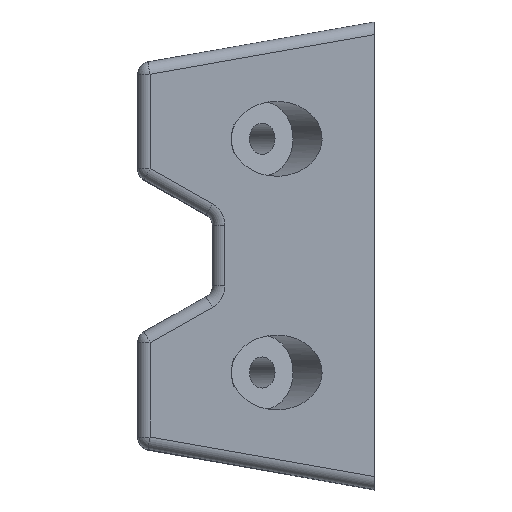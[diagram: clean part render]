
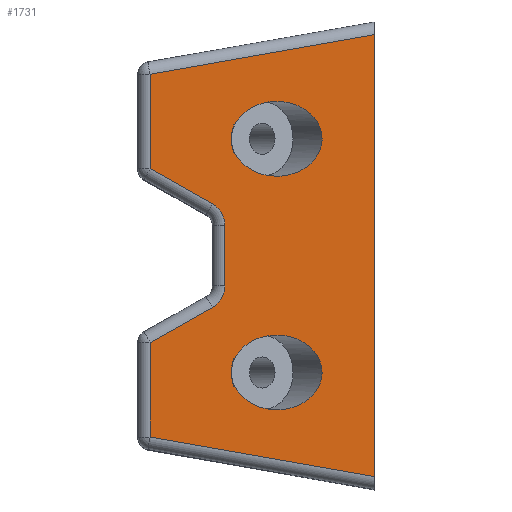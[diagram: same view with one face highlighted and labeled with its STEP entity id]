
A CAD part, top view. The second image highlights one B-rep face of the part: STEP entity #1731.
In plain terms, the highlighted planar face has unit normal (0, 0, 1).
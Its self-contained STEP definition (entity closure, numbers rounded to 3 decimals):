
#25=FACE_BOUND('',#332,.T.);
#26=FACE_BOUND('',#333,.T.);
#61=PLANE('',#1986);
#207=FACE_OUTER_BOUND('',#331,.T.);
#331=EDGE_LOOP('',(#1507,#1508,#1509,#1510,#1511,#1512,#1513,#1514,#1515,
#1516));
#332=EDGE_LOOP('',(#1517,#1518));
#333=EDGE_LOOP('',(#1519,#1520));
#351=ELLIPSE('',#1770,7.277,6.);
#352=ELLIPSE('',#1773,7.277,6.);
#385=ELLIPSE('',#1987,7.277,6.);
#386=ELLIPSE('',#1988,7.277,6.);
#419=CIRCLE('',#1847,4.);
#423=CIRCLE('',#1853,4.);
#523=LINE('',#2990,#619);
#524=LINE('',#2996,#620);
#527=LINE('',#3008,#623);
#528=LINE('',#3019,#624);
#530=LINE('',#3030,#626);
#532=LINE('',#3036,#628);
#535=LINE('',#3047,#631);
#582=LINE('',#3625,#678);
#619=VECTOR('',#2184,10.);
#620=VECTOR('',#2191,10.);
#623=VECTOR('',#2202,10.);
#624=VECTOR('',#2215,10.);
#626=VECTOR('',#2229,10.);
#628=VECTOR('',#2235,10.);
#631=VECTOR('',#2246,10.);
#678=VECTOR('',#2541,10.);
#684=VERTEX_POINT('',#2595);
#685=VERTEX_POINT('',#2597);
#687=VERTEX_POINT('',#2602);
#688=VERTEX_POINT('',#2604);
#742=VERTEX_POINT('',#2987);
#743=VERTEX_POINT('',#2989);
#745=VERTEX_POINT('',#2995);
#747=VERTEX_POINT('',#3001);
#750=VERTEX_POINT('',#3006);
#752=VERTEX_POINT('',#3011);
#754=VERTEX_POINT('',#3017);
#756=VERTEX_POINT('',#3023);
#759=VERTEX_POINT('',#3035);
#761=VERTEX_POINT('',#3041);
#823=EDGE_CURVE('',#684,#685,#351,.T.);
#826=EDGE_CURVE('',#687,#688,#352,.T.);
#905=EDGE_CURVE('',#742,#743,#523,.T.);
#908=EDGE_CURVE('',#743,#745,#524,.T.);
#914=EDGE_CURVE('',#750,#747,#527,.T.);
#916=EDGE_CURVE('',#752,#750,#419,.T.);
#919=EDGE_CURVE('',#754,#752,#528,.T.);
#922=EDGE_CURVE('',#756,#754,#423,.T.);
#925=EDGE_CURVE('',#745,#756,#530,.T.);
#928=EDGE_CURVE('',#747,#759,#532,.T.);
#934=EDGE_CURVE('',#759,#761,#535,.T.);
#1056=EDGE_CURVE('',#742,#761,#582,.T.);
#1057=EDGE_CURVE('',#685,#684,#385,.T.);
#1058=EDGE_CURVE('',#688,#687,#386,.T.);
#1507=ORIENTED_EDGE('',*,*,#905,.F.);
#1508=ORIENTED_EDGE('',*,*,#1056,.T.);
#1509=ORIENTED_EDGE('',*,*,#934,.F.);
#1510=ORIENTED_EDGE('',*,*,#928,.F.);
#1511=ORIENTED_EDGE('',*,*,#914,.F.);
#1512=ORIENTED_EDGE('',*,*,#916,.F.);
#1513=ORIENTED_EDGE('',*,*,#919,.F.);
#1514=ORIENTED_EDGE('',*,*,#922,.F.);
#1515=ORIENTED_EDGE('',*,*,#925,.F.);
#1516=ORIENTED_EDGE('',*,*,#908,.F.);
#1517=ORIENTED_EDGE('',*,*,#1057,.T.);
#1518=ORIENTED_EDGE('',*,*,#823,.T.);
#1519=ORIENTED_EDGE('',*,*,#1058,.T.);
#1520=ORIENTED_EDGE('',*,*,#826,.T.);
#1731=ADVANCED_FACE('',(#207,#25,#26),#61,.T.);
#1770=AXIS2_PLACEMENT_3D('',#2599,#2017,#2018);
#1773=AXIS2_PLACEMENT_3D('',#2606,#2024,#2025);
#1847=AXIS2_PLACEMENT_3D('',#3013,#2207,#2208);
#1853=AXIS2_PLACEMENT_3D('',#3025,#2221,#2222);
#1986=AXIS2_PLACEMENT_3D('',#3624,#2539,#2540);
#1987=AXIS2_PLACEMENT_3D('',#3626,#2542,#2543);
#1988=AXIS2_PLACEMENT_3D('',#3627,#2544,#2545);
#2017=DIRECTION('center_axis',(0.,0.,-1.));
#2018=DIRECTION('ref_axis',(-1.,0.,0.));
#2024=DIRECTION('center_axis',(0.,0.,-1.));
#2025=DIRECTION('ref_axis',(-1.,0.,0.));
#2184=DIRECTION('',(-0.985,0.174,0.));
#2191=DIRECTION('',(0.,1.,0.));
#2202=DIRECTION('',(-0.87,0.493,0.));
#2207=DIRECTION('center_axis',(0.,0.,1.));
#2208=DIRECTION('ref_axis',(0.864,0.503,0.));
#2215=DIRECTION('',(0.,1.,0.));
#2221=DIRECTION('center_axis',(0.,0.,1.));
#2222=DIRECTION('ref_axis',(0.864,-0.503,0.));
#2229=DIRECTION('',(0.87,0.493,0.));
#2235=DIRECTION('',(0.,1.,0.));
#2246=DIRECTION('',(0.985,0.174,0.));
#2539=DIRECTION('center_axis',(0.,0.,1.));
#2540=DIRECTION('ref_axis',(1.,0.,0.));
#2541=DIRECTION('',(0.,1.,0.));
#2542=DIRECTION('center_axis',(0.,0.,-1.));
#2543=DIRECTION('ref_axis',(-1.,0.,0.));
#2544=DIRECTION('center_axis',(0.,0.,-1.));
#2545=DIRECTION('ref_axis',(-1.,0.,0.));
#2595=CARTESIAN_POINT('',(38.329,-24.75,34.));
#2597=CARTESIAN_POINT('',(31.053,-18.75,34.));
#2599=CARTESIAN_POINT('Origin',(38.329,-18.75,34.));
#2602=CARTESIAN_POINT('',(38.329,12.75,34.));
#2604=CARTESIAN_POINT('',(31.053,18.75,34.));
#2606=CARTESIAN_POINT('Origin',(38.329,18.75,34.));
#2987=CARTESIAN_POINT('',(54.,-35.469,34.));
#2989=CARTESIAN_POINT('',(18.,-29.121,34.));
#2990=CARTESIAN_POINT('',(32.714,-31.716,34.));
#2995=CARTESIAN_POINT('',(18.,-13.965,34.));
#2996=CARTESIAN_POINT('',(18.,0.,34.));
#3001=CARTESIAN_POINT('',(18.,13.965,34.));
#3006=CARTESIAN_POINT('',(27.972,8.315,34.));
#3008=CARTESIAN_POINT('',(19.731,12.984,34.));
#3011=CARTESIAN_POINT('',(30.,4.835,34.));
#3013=CARTESIAN_POINT('Origin',(26.,4.835,34.));
#3017=CARTESIAN_POINT('',(30.,-4.835,34.));
#3019=CARTESIAN_POINT('',(30.,3.,34.));
#3023=CARTESIAN_POINT('',(27.972,-8.315,34.));
#3025=CARTESIAN_POINT('Origin',(26.,-4.835,34.));
#3030=CARTESIAN_POINT('',(25.731,-9.584,34.));
#3035=CARTESIAN_POINT('',(18.,29.121,34.));
#3036=CARTESIAN_POINT('',(18.,0.,34.));
#3041=CARTESIAN_POINT('',(54.,35.469,34.));
#3047=CARTESIAN_POINT('',(32.714,31.716,34.));
#3624=CARTESIAN_POINT('Origin',(16.,0.,34.));
#3625=CARTESIAN_POINT('',(54.,0.,34.));
#3626=CARTESIAN_POINT('Origin',(38.329,-18.75,34.));
#3627=CARTESIAN_POINT('Origin',(38.329,18.75,34.));
